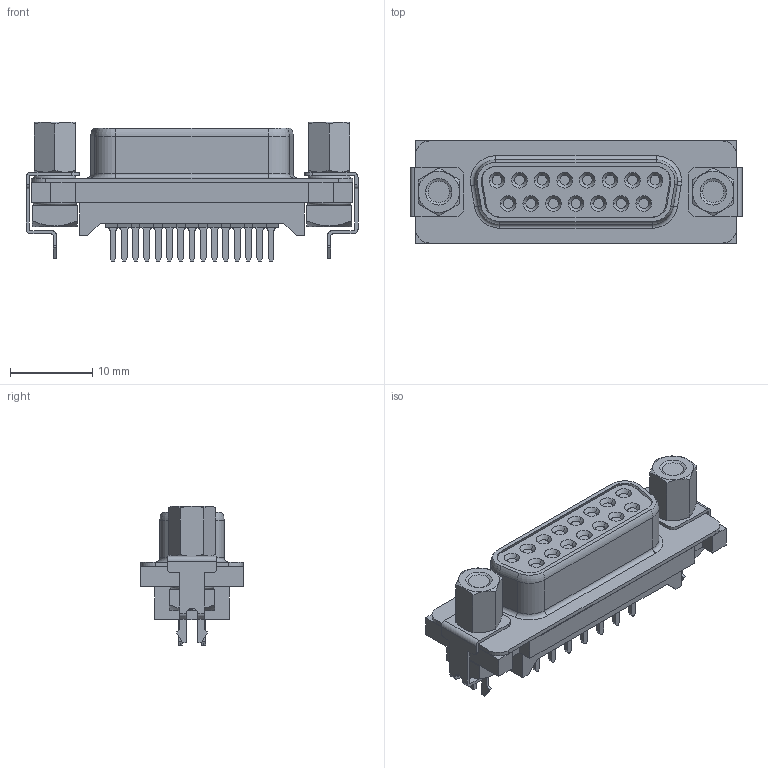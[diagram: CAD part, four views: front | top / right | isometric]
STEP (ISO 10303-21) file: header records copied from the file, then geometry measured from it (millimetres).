
FILE_DESCRIPTION (( 'STEP AP203' ), '1' );
FILE_NAME ('17JE-13150-37(D23A)-FA.STEP', '2021-12-21T10:32:11', ( '' ), ( '' ), 'SwSTEP 2.0', 'SolidWorks 2018', '' );
FILE_SCHEMA (( 'CONFIG_CONTROL_DESIGN' ));
Length unit declared in the file: millimetre
Products named in the file (1): 17JE-13150-37(D23A)-FA
Bounding box: 40.32 x 12.5 x 17 mm (x, y, z)
Volume: 3592.4 mm3; surface area: 4003.4 mm2
Topology: 1 solids, 5 shells, 733 faces, 1861 edges, 1190 vertices
Faces by surface type: plane 462, cylinder 154, cone 59, torus 58
Entity records: 22238 total; most frequent: CARTESIAN_POINT 4093, DIRECTION 3827, ORIENTED_EDGE 3722, EDGE_CURVE 1861, AXIS2_PLACEMENT_3D 1284, LINE 1259, VECTOR 1259, VERTEX_POINT 1190
